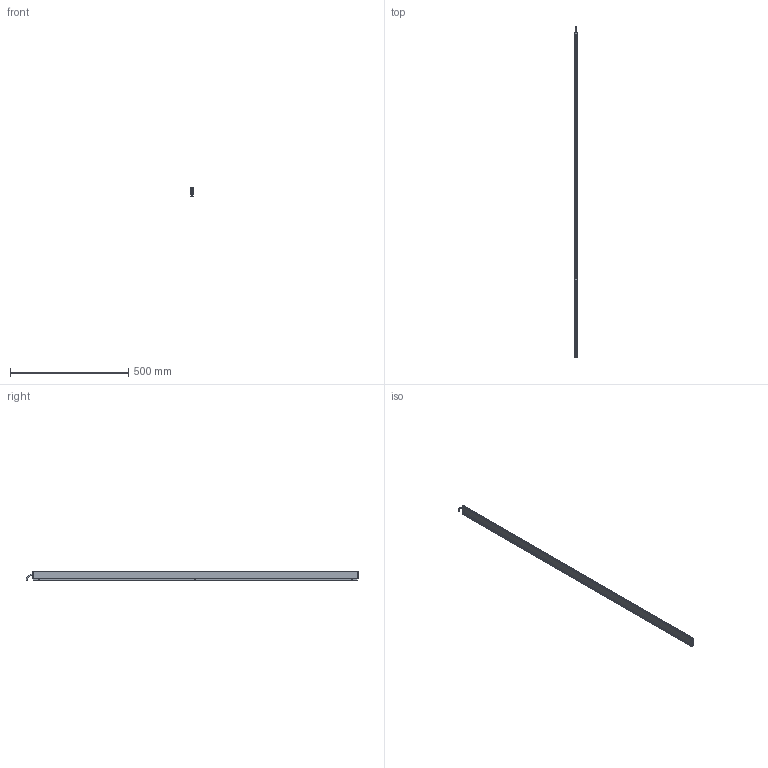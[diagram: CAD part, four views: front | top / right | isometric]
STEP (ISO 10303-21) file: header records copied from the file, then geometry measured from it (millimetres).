
FILE_DESCRIPTION (( 'STEP AP214' ), '1' );
FILE_NAME ('ILG-L-K1-1375mm.STEP', '2017-07-11T07:10:46', ( '' ), ( '' ), 'SwSTEP 2.0', 'SolidWorks 2016', '' );
FILE_SCHEMA (( 'AUTOMOTIVE_DESIGN' ));
Length unit declared in the file: millimetre
Products named in the file (1): ILG-L-K1-1375mm
Bounding box: 9 x 1403.25 x 40.71 mm (x, y, z)
Volume: 194921.2 mm3; surface area: 271159.9 mm2
Topology: 9 solids, 9 shells, 430 faces, 1108 edges, 698 vertices
Faces by surface type: plane 205, cylinder 151, cone 64, torus 10
Entity records: 17910 total; most frequent: CARTESIAN_POINT 2385, DIRECTION 2328, ORIENTED_EDGE 2200, EDGE_CURVE 1100, AXIS2_PLACEMENT_3D 849, VERTEX_POINT 698, LINE 630, VECTOR 630
